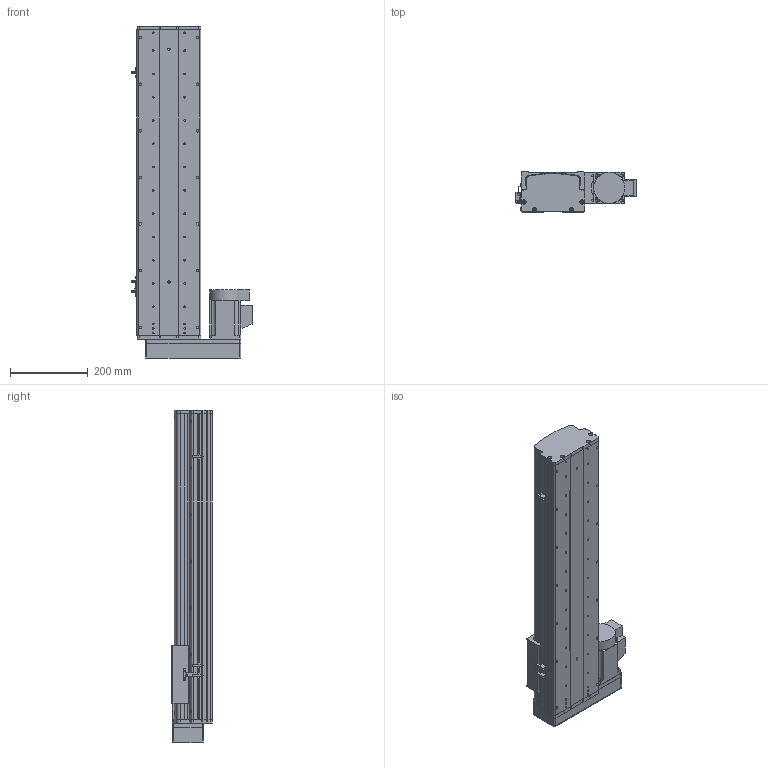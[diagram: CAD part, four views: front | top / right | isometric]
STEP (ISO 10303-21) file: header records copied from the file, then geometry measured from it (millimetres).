
FILE_DESCRIPTION (( 'STEP AP214' ), '1' );
FILE_NAME ('KSD165S-S550-ML-CM.STEP', '2017-10-17T08:52:54', ( '微软用户' ), ( '微软中国' ), 'SwSTEP 2.0', 'SolidWorks 2014', '' );
FILE_SCHEMA (( 'AUTOMOTIVE_DESIGN' ));
Length unit declared in the file: millimetre
Products named in the file (17): U倰嫖萇假蚾璃; HTPA26S5M250-A-H8丝杆用(内径14）; HTPA26S5M250-A-H8 750W萇儂蚚; 肣翐M4X35樓6; 165宽模组保护罩左右折; 165宽模组马达安装板连板左右折丝杆; KSD165模组-丝杆上下左右折前端板; KSD165耀郪-佪裝-滅袉菜-3 -; KSD165耀郪-佪裝-滅袉菜-1; KSD165耀郪-綴傷啣1; KSD165模组-丝杆滑动座-最新版; KSD165S-S550-ML-CM; 拸秶雄ん750W侜督萇儂; KSD165模组-防尘盖1-550行程-最新版; KSD165模组底板-550行程-最新; 覜茼え68遵圉猾敕; U倰嫖萇EEㄜSX672
Assembly tree (23 placements, depth 2):
  KSD165S-S550-ML-CM
    KSD165模组-丝杆滑动座-最新版
    KSD165耀郪-綴傷啣1
    KSD165耀郪-佪裝-滅袉菜-1
    KSD165耀郪-佪裝-滅袉菜-3 -
    KSD165模组-丝杆上下左右折前端板
    165宽模组马达安装板连板左右折丝杆
    165宽模组保护罩左右折
    肣翐M4X35樓6  x4
    HTPA26S5M250-A-H8 750W萇儂蚚
    HTPA26S5M250-A-H8丝杆用(内径14）
    U倰嫖萇假蚾璃  x3
    U倰嫖萇EEㄜSX672  x3
    覜茼え68遵圉猾敕
    KSD165模组底板-550行程-最新
    KSD165模组-防尘盖1-550行程-最新版
    拸秶雄ん750W侜督萇儂
Bounding box: 311.2 x 104 x 855.5 mm (x, y, z)
Volume: 5845891.8 mm3; surface area: 1354315.5 mm2
Topology: 24 solids, 24 shells, 1851 faces, 5214 edges, 3403 vertices
Faces by surface type: cylinder 1167, plane 575, cone 109
Entity records: 59037 total; most frequent: CARTESIAN_POINT 12295, DIRECTION 9543, ORIENTED_EDGE 8908, EDGE_CURVE 4454, AXIS2_PLACEMENT_3D 3732, VERTEX_POINT 2932, CIRCLE 2120, VECTOR 2079
